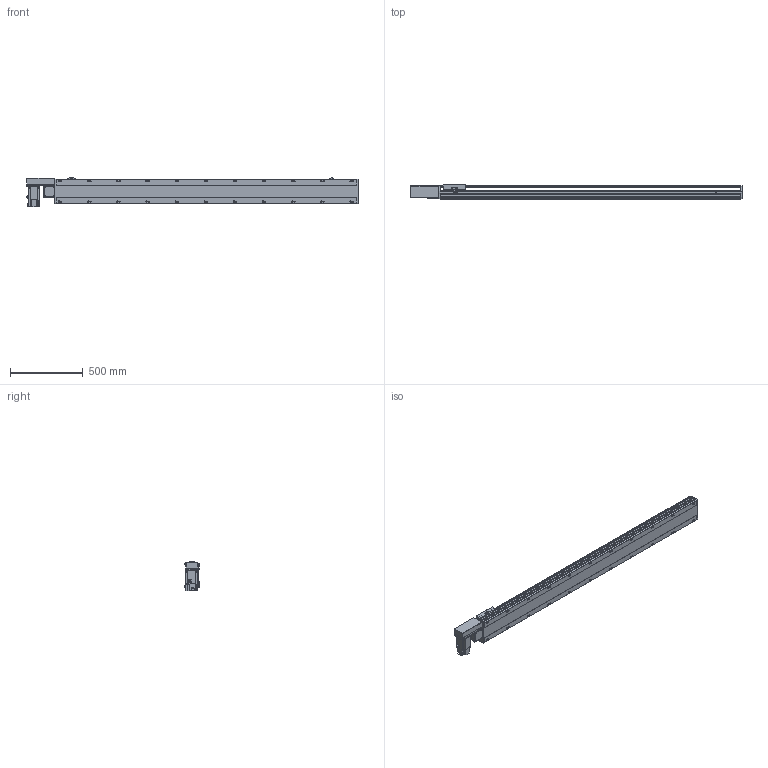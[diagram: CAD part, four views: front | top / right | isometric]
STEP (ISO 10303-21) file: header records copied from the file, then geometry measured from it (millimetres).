
FILE_DESCRIPTION(/* description */ ('STEP AP214'),/* implementation_level */ '2;1');
FILE_NAME(/* name */ 'PBS170-P40-S1800-R-T75-C1-N(0)',/* time_stamp */ '2022-06-07T09:31:11+02:00',/* author */ ('License CC BY-ND 4.0'),/* organization */ ('CADENAS'),/* preprocessor_version */ 'ST-DEVELOPER v18.102',/* originating_system */ 'PARTsolutions',/* authorisation */ ' ');
FILE_SCHEMA (('AUTOMOTIVE_DESIGN {1 0 10303 214 3 1 1}'));
Length unit declared in the file: millimetre
Products named in the file (7): PBS170-P40-S1800-R-T75-C1-N(0); PBS170_sensor; PBS170_plant; PBS170_sliser; T75-p1; PBS170T-R_motors; PBS170-S1800()_body
Assembly tree (8 placements, depth 2):
  PBS170-P40-S1800-R-T75-C1-N(0)
    PBS170_sensor  x3
    PBS170_plant
    PBS170_sliser
    T75-p1
    PBS170T-R_motors
    PBS170-S1800()_body
Bounding box: 2278 x 97 x 205.3 mm (x, y, z)
Volume: 16692904.7 mm3; surface area: 2127027.5 mm2
Topology: 8 solids, 8 shells, 1130 faces, 2995 edges, 1952 vertices
Faces by surface type: plane 705, cylinder 363, cone 52, sphere 8, torus 2
Full cylindrical faces by diameter (mm): 3.242 x4, 4 x2, 4.4 x4, 4.5 x6, 4.917 x4, 6 x9, 6.647 x30, 7 x2, 7.5 x4, 8 x8, 8.5 x22, 10 x4, 10.5 x22, 11 x2, 30 x2, 40 x1, 70 x1
Entity records: 32492 total; most frequent: CARTESIAN_POINT 6049, DIRECTION 5510, ORIENTED_EDGE 5208, EDGE_CURVE 2604, AXIS2_PLACEMENT_3D 1927, VERTEX_POINT 1802, LINE 1656, VECTOR 1656
